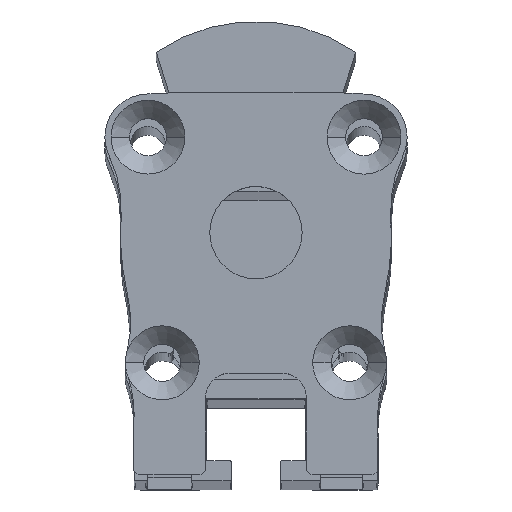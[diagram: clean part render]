
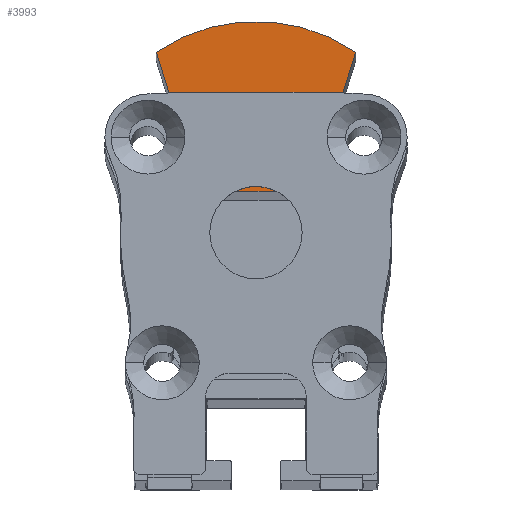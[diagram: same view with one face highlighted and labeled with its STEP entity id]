
A CAD part, top view. The second image highlights one B-rep face of the part: STEP entity #3993.
In plain terms, the highlighted planar face has unit normal (0, 0, 1).
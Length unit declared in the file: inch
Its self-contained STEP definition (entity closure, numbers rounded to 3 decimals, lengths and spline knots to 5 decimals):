
#3993=ADVANCED_FACE('',(#7809),#7810,.T.);
#4001=EDGE_CURVE('',#7813,#7819,#7822,.T.);
#4007=EDGE_CURVE('',#7827,#7819,#7830,.F.);
#4029=EDGE_CURVE('',#7861,#7862,#7863,.F.);
#4035=EDGE_CURVE('',#7869,#7870,#7871,.F.);
#4041=EDGE_CURVE('',#7870,#7861,#7877,.F.);
#4043=EDGE_CURVE('',#7869,#7879,#7880,.F.);
#4047=EDGE_CURVE('',#7813,#7862,#7884,.F.);
#4049=EDGE_CURVE('',#7886,#7887,#7888,.F.);
#4055=EDGE_CURVE('',#7827,#7894,#7895,.F.);
#4059=EDGE_CURVE('',#7894,#7886,#7899,.F.);
#4063=EDGE_CURVE('',#7901,#7887,#7904,.F.);
#4065=EDGE_CURVE('',#7879,#7901,#7906,.F.);
#7809=FACE_OUTER_BOUND('',#18353,.T.);
#7810=PLANE('',#18354);
#7813=VERTEX_POINT('',#18358);
#7819=VERTEX_POINT('',#18368);
#7822=LINE('',#18373,#18374);
#7827=VERTEX_POINT('',#18382);
#7830=LINE('',#18387,#18388);
#7861=VERTEX_POINT('',#18439);
#7862=VERTEX_POINT('',#18440);
#7863=LINE('',#18441,#18442);
#7869=VERTEX_POINT('',#18453);
#7870=VERTEX_POINT('',#18454);
#7871=LINE('',#18455,#18456);
#7877=LINE('',#18467,#18468);
#7879=VERTEX_POINT('',#18471);
#7880=LINE('',#18472,#18473);
#7884=LINE('',#18480,#18481);
#7886=VERTEX_POINT('',#18484);
#7887=VERTEX_POINT('',#18485);
#7888=LINE('',#18486,#18487);
#7894=VERTEX_POINT('',#18498);
#7895=LINE('',#18499,#18500);
#7899=LINE('',#18507,#18508);
#7901=VERTEX_POINT('',#18511);
#7904=LINE('',#18516,#18517);
#7906=CIRCLE('',#18520,0.56299);
#18353=EDGE_LOOP('',(#24062,#24063,#24064,#24065,#24066,#24067,#24068,#24069,#24070,#24071,#24072,#24073));
#18354=AXIS2_PLACEMENT_3D('',#24074,#24075,#24076);
#18358=CARTESIAN_POINT('',(-0.17932,0.15296,4.99257));
#18368=CARTESIAN_POINT('',(0.17932,0.15296,4.99257));
#18373=CARTESIAN_POINT('',(0.,0.15296,4.99257));
#18374=VECTOR('',#24080,1.0);
#18382=CARTESIAN_POINT('',(0.26301,0.4208,4.99257));
#18387=CARTESIAN_POINT('',(0.19145,0.19179,4.99257));
#18388=VECTOR('',#24083,1.0);
#18439=CARTESIAN_POINT('',(-0.21005,0.4208,4.99257));
#18440=CARTESIAN_POINT('',(-0.26301,0.4208,4.99257));
#18441=CARTESIAN_POINT('',(-0.12298,0.4208,4.99257));
#18442=VECTOR('',#24096,1.0);
#18453=CARTESIAN_POINT('',(-0.27532,0.46017,4.99257));
#18454=CARTESIAN_POINT('',(-0.21005,0.46017,4.99257));
#18455=CARTESIAN_POINT('',(-0.12298,0.46017,4.99257));
#18456=VECTOR('',#24099,1.0);
#18467=CARTESIAN_POINT('',(-0.21005,0.35333,4.99257));
#18468=VECTOR('',#24102,1.0);
#18471=CARTESIAN_POINT('',(-0.31832,0.59777,4.99257));
#18472=CARTESIAN_POINT('',(-0.19145,0.19179,4.99257));
#18473=VECTOR('',#24103,1.0);
#18480=CARTESIAN_POINT('',(-0.19145,0.19179,4.99257));
#18481=VECTOR('',#24105,1.0);
#18484=CARTESIAN_POINT('',(0.20856,0.46017,4.99257));
#18485=CARTESIAN_POINT('',(0.27532,0.46017,4.99257));
#18486=CARTESIAN_POINT('',(0.12223,0.46017,4.99257));
#18487=VECTOR('',#24106,1.0);
#18498=CARTESIAN_POINT('',(0.20856,0.4208,4.99257));
#18499=CARTESIAN_POINT('',(0.12223,0.4208,4.99257));
#18500=VECTOR('',#24109,1.0);
#18507=CARTESIAN_POINT('',(0.20856,0.35333,4.99257));
#18508=VECTOR('',#24111,1.0);
#18511=CARTESIAN_POINT('',(0.31832,0.59777,4.99257));
#18516=CARTESIAN_POINT('',(0.19145,0.19179,4.99257));
#18517=VECTOR('',#24113,1.0);
#18520=AXIS2_PLACEMENT_3D('',#24114,#24115,#24116);
#24062=ORIENTED_EDGE('',*,*,#4001,.T.);
#24063=ORIENTED_EDGE('',*,*,#4007,.F.);
#24064=ORIENTED_EDGE('',*,*,#4055,.T.);
#24065=ORIENTED_EDGE('',*,*,#4059,.T.);
#24066=ORIENTED_EDGE('',*,*,#4049,.T.);
#24067=ORIENTED_EDGE('',*,*,#4063,.F.);
#24068=ORIENTED_EDGE('',*,*,#4065,.F.);
#24069=ORIENTED_EDGE('',*,*,#4043,.F.);
#24070=ORIENTED_EDGE('',*,*,#4035,.T.);
#24071=ORIENTED_EDGE('',*,*,#4041,.T.);
#24072=ORIENTED_EDGE('',*,*,#4029,.T.);
#24073=ORIENTED_EDGE('',*,*,#4047,.F.);
#24074=CARTESIAN_POINT('',(0.,0.26619,4.99257));
#24075=DIRECTION('',(0.,0.,1.0));
#24076=DIRECTION('',(1.0,0.0,0.));
#24080=DIRECTION('',(1.0,0.0,0.));
#24083=DIRECTION('',(0.298,0.954,0.));
#24096=DIRECTION('',(1.0,0.0,0.));
#24099=DIRECTION('',(-1.0,0.0,0.));
#24102=DIRECTION('',(-0.0,1.0,0.));
#24103=DIRECTION('',(0.298,-0.954,0.));
#24105=DIRECTION('',(0.298,-0.954,0.));
#24106=DIRECTION('',(-1.0,0.0,0.));
#24109=DIRECTION('',(1.0,0.0,0.));
#24111=DIRECTION('',(-0.0,-1.0,0.));
#24113=DIRECTION('',(0.298,0.954,0.));
#24114=CARTESIAN_POINT('',(0.,0.13341,4.99257));
#24115=DIRECTION('',(0.,0.,1.0));
#24116=DIRECTION('',(1.0,0.,0.));
